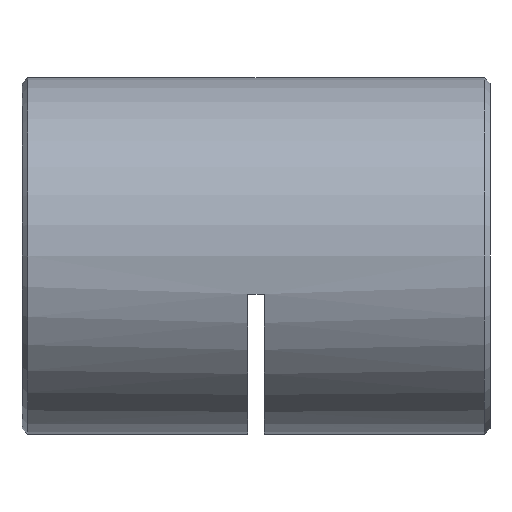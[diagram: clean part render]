
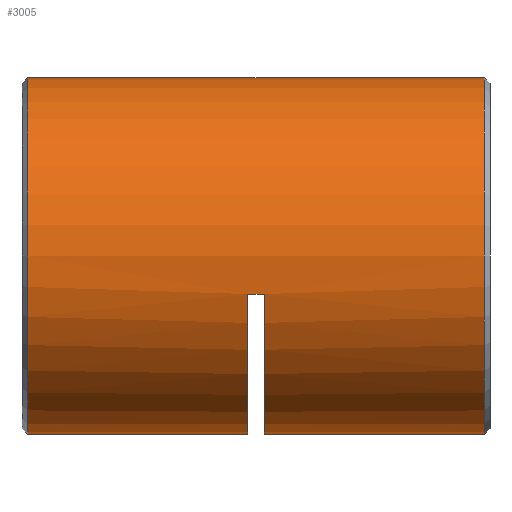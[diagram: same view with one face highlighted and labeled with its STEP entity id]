
A CAD part, left-side view. The second image highlights one B-rep face of the part: STEP entity #3005.
In plain terms, the highlighted cylindrical face has radius 16 mm (diameter 32 mm), a partial arc.
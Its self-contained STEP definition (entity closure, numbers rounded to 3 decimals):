
#155 = CARTESIAN_POINT ( 'NONE',  ( 0., 41.75, 0. ) ) ;
#287 = EDGE_CURVE ( 'NONE', #5867, #5110, #1585, .T. ) ;
#308 = ORIENTED_EDGE ( 'NONE', *, *, #2656, .T. ) ;
#411 = CARTESIAN_POINT ( 'NONE',  ( 0., 0.75, 0. ) ) ;
#426 = CARTESIAN_POINT ( 'NONE',  ( -15.632, 21.25, -3.413 ) ) ;
#609 = AXIS2_PLACEMENT_3D ( 'NONE', #411, #2331, #1311 ) ;
#626 = ORIENTED_EDGE ( 'NONE', *, *, #961, .T. ) ;
#811 = CARTESIAN_POINT ( 'NONE',  ( 0., 20.5, -16. ) ) ;
#961 = EDGE_CURVE ( 'NONE', #4461, #5952, #1939, .T. ) ;
#964 = DIRECTION ( 'NONE',  ( 0., -1., 0. ) ) ;
#965 = CARTESIAN_POINT ( 'NONE',  ( 0., 42.5, 16. ) ) ;
#1148 = DIRECTION ( 'NONE',  ( 0., -1., 0. ) ) ;
#1171 = CIRCLE ( 'NONE', #1621, 16. ) ;
#1240 = CARTESIAN_POINT ( 'NONE',  ( -15.632, 22., -3.413 ) ) ;
#1309 = LINE ( 'NONE', #426, #3471 ) ;
#1311 = DIRECTION ( 'NONE',  ( 0., 0., 1. ) ) ;
#1313 = AXIS2_PLACEMENT_3D ( 'NONE', #4954, #964, #5471 ) ;
#1445 = CARTESIAN_POINT ( 'NONE',  ( 0., 22., 0. ) ) ;
#1453 = AXIS2_PLACEMENT_3D ( 'NONE', #155, #1148, #5492 ) ;
#1585 = CIRCLE ( 'NONE', #609, 16. ) ;
#1609 = CARTESIAN_POINT ( 'NONE',  ( 0., 22., -16. ) ) ;
#1621 = AXIS2_PLACEMENT_3D ( 'NONE', #3209, #2676, #5595 ) ;
#1635 = CARTESIAN_POINT ( 'NONE',  ( 0., 0.75, -16. ) ) ;
#1640 = EDGE_CURVE ( 'NONE', #4274, #4461, #5391, .T. ) ;
#1784 = CIRCLE ( 'NONE', #6081, 16. ) ;
#1880 = ORIENTED_EDGE ( 'NONE', *, *, #3642, .T. ) ;
#1927 = DIRECTION ( 'NONE',  ( 0., -1., 0. ) ) ;
#1939 = LINE ( 'NONE', #2995, #6078 ) ;
#2032 = ORIENTED_EDGE ( 'NONE', *, *, #1640, .T. ) ;
#2182 = VERTEX_POINT ( 'NONE', #811 ) ;
#2331 = DIRECTION ( 'NONE',  ( 0., 1., 0. ) ) ;
#2399 = EDGE_CURVE ( 'NONE', #4274, #5110, #3918, .T. ) ;
#2493 = DIRECTION ( 'NONE',  ( 0., -1., 0. ) ) ;
#2656 = EDGE_CURVE ( 'NONE', #4243, #2182, #1171, .T. ) ;
#2676 = DIRECTION ( 'NONE',  ( 0., -1., 0. ) ) ;
#2766 = ORIENTED_EDGE ( 'NONE', *, *, #3155, .T. ) ;
#2799 = EDGE_LOOP ( 'NONE', ( #5310, #2032, #626, #5299, #2766, #308, #1880, #5866 ) ) ;
#2974 = EDGE_CURVE ( 'NONE', #6029, #5952, #1784, .T. ) ;
#2995 = CARTESIAN_POINT ( 'NONE',  ( 0., 42.5, -16. ) ) ;
#3005 = ADVANCED_FACE ( 'NONE', ( #4154 ), #4448, .T. ) ;
#3036 = VECTOR ( 'NONE', #3575, 1000. ) ;
#3155 = EDGE_CURVE ( 'NONE', #6029, #4243, #1309, .T. ) ;
#3209 = CARTESIAN_POINT ( 'NONE',  ( 0., 20.5, 0. ) ) ;
#3281 = CARTESIAN_POINT ( 'NONE',  ( 0., 41.75, 16. ) ) ;
#3424 = CARTESIAN_POINT ( 'NONE',  ( 0., 0.75, 16. ) ) ;
#3471 = VECTOR ( 'NONE', #5414, 1000. ) ;
#3575 = DIRECTION ( 'NONE',  ( 0., -1., 0. ) ) ;
#3642 = EDGE_CURVE ( 'NONE', #2182, #5867, #4759, .T. ) ;
#3685 = CARTESIAN_POINT ( 'NONE',  ( -15.632, 20.5, -3.413 ) ) ;
#3918 = LINE ( 'NONE', #965, #4763 ) ;
#4154 = FACE_OUTER_BOUND ( 'NONE', #2799, .T. ) ;
#4243 = VERTEX_POINT ( 'NONE', #3685 ) ;
#4274 = VERTEX_POINT ( 'NONE', #3281 ) ;
#4367 = CARTESIAN_POINT ( 'NONE',  ( 0., 41.75, -16. ) ) ;
#4448 = CYLINDRICAL_SURFACE ( 'NONE', #1313, 16. ) ;
#4461 = VERTEX_POINT ( 'NONE', #4367 ) ;
#4759 = LINE ( 'NONE', #5971, #3036 ) ;
#4763 = VECTOR ( 'NONE', #5407, 1000. ) ;
#4954 = CARTESIAN_POINT ( 'NONE',  ( 0., 42.5, 0. ) ) ;
#5110 = VERTEX_POINT ( 'NONE', #3424 ) ;
#5299 = ORIENTED_EDGE ( 'NONE', *, *, #2974, .F. ) ;
#5310 = ORIENTED_EDGE ( 'NONE', *, *, #2399, .F. ) ;
#5391 = CIRCLE ( 'NONE', #1453, 16. ) ;
#5407 = DIRECTION ( 'NONE',  ( 0., -1., 0. ) ) ;
#5414 = DIRECTION ( 'NONE',  ( 0., -1., 0. ) ) ;
#5471 = DIRECTION ( 'NONE',  ( 0., 0., -1. ) ) ;
#5492 = DIRECTION ( 'NONE',  ( 0., 0., -1. ) ) ;
#5595 = DIRECTION ( 'NONE',  ( 0., 0., -1. ) ) ;
#5866 = ORIENTED_EDGE ( 'NONE', *, *, #287, .T. ) ;
#5867 = VERTEX_POINT ( 'NONE', #1635 ) ;
#5929 = DIRECTION ( 'NONE',  ( 0., 0., -1. ) ) ;
#5952 = VERTEX_POINT ( 'NONE', #1609 ) ;
#5971 = CARTESIAN_POINT ( 'NONE',  ( 0., 42.5, -16. ) ) ;
#6029 = VERTEX_POINT ( 'NONE', #1240 ) ;
#6078 = VECTOR ( 'NONE', #2493, 1000. ) ;
#6081 = AXIS2_PLACEMENT_3D ( 'NONE', #1445, #1927, #5929 ) ;
